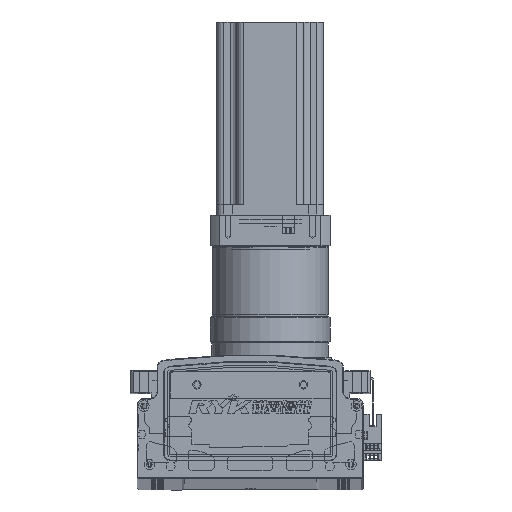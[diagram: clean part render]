
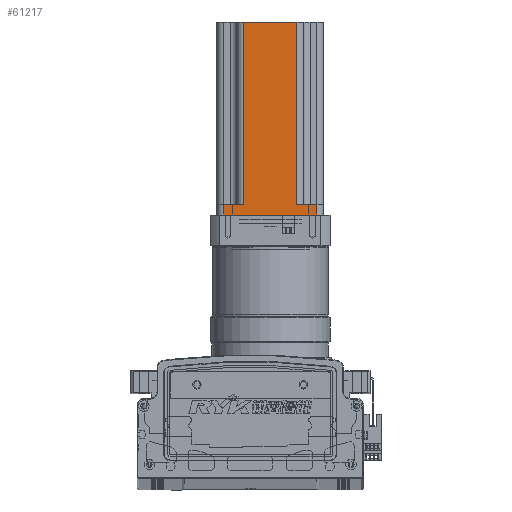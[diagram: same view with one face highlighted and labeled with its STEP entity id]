
A CAD part, top view. The second image highlights one B-rep face of the part: STEP entity #61217.
In plain terms, the highlighted planar face has unit normal (0, 0, 1) as drawn and (0, -1, 0) by its records, which use the part's own axes.
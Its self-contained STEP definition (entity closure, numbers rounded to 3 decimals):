
#7154 = EDGE_LOOP ( 'NONE', ( #81392, #79433, #81344, #81359, #81338, #81356, #81395, #81521 ) ) ;
#11948 = VERTEX_POINT ( 'NONE', #91412 ) ;
#11988 = VERTEX_POINT ( 'NONE', #91482 ) ;
#19806 = CARTESIAN_POINT ( 'NONE',  ( -67.587, -40.37, 8. ) ) ;
#19839 = CARTESIAN_POINT ( 'NONE',  ( -27.587, -40.37, 145. ) ) ;
#19842 = CARTESIAN_POINT ( 'NONE',  ( -12.587, -40.37, 8. ) ) ;
#19911 = CARTESIAN_POINT ( 'NONE',  ( -67.587, -40.37, 145. ) ) ;
#19941 = CARTESIAN_POINT ( 'NONE',  ( -82.587, -40.37, 8. ) ) ;
#19985 = CARTESIAN_POINT ( 'NONE',  ( -27.587, -40.37, 8. ) ) ;
#54371 = FACE_OUTER_BOUND ( 'NONE', #7154, .T. ) ;
#61217 = ADVANCED_FACE ( 'NONE', ( #54371 ), #128482, .F. ) ;
#74432 = VERTEX_POINT ( 'NONE', #19842 ) ;
#74434 = VERTEX_POINT ( 'NONE', #19839 ) ;
#74474 = VERTEX_POINT ( 'NONE', #19806 ) ;
#74554 = VERTEX_POINT ( 'NONE', #19911 ) ;
#74647 = VERTEX_POINT ( 'NONE', #19985 ) ;
#74710 = VERTEX_POINT ( 'NONE', #19941 ) ;
#79433 = ORIENTED_EDGE ( 'NONE', *, *, #107526, .T. ) ;
#81338 = ORIENTED_EDGE ( 'NONE', *, *, #107436, .F. ) ;
#81344 = ORIENTED_EDGE ( 'NONE', *, *, #107443, .T. ) ;
#81356 = ORIENTED_EDGE ( 'NONE', *, *, #107421, .T. ) ;
#81359 = ORIENTED_EDGE ( 'NONE', *, *, #107495, .T. ) ;
#81392 = ORIENTED_EDGE ( 'NONE', *, *, #107429, .F. ) ;
#81395 = ORIENTED_EDGE ( 'NONE', *, *, #107465, .F. ) ;
#81521 = ORIENTED_EDGE ( 'NONE', *, *, #107422, .T. ) ;
#91412 = CARTESIAN_POINT ( 'NONE',  ( -12.587, -40.37, 0. ) ) ;
#91482 = CARTESIAN_POINT ( 'NONE',  ( -82.587, -40.37, 0. ) ) ;
#100448 = CARTESIAN_POINT ( 'NONE',  ( -27.587, -40.37, 145. ) ) ;
#100450 = DIRECTION ( 'NONE',  ( 0., 0., 1. ) ) ;
#100467 = DIRECTION ( 'NONE',  ( 0., 0., -1. ) ) ;
#100469 = CARTESIAN_POINT ( 'NONE',  ( -67.587, -40.37, 145. ) ) ;
#100534 = CARTESIAN_POINT ( 'NONE',  ( -87.587, -40.37, 8. ) ) ;
#100601 = DIRECTION ( 'NONE',  ( 1., 0., 0. ) ) ;
#100632 = CARTESIAN_POINT ( 'NONE',  ( -87.587, -40.37, 0. ) ) ;
#100653 = DIRECTION ( 'NONE',  ( 1., 0., 0. ) ) ;
#100655 = CARTESIAN_POINT ( 'NONE',  ( -7.587, -40.37, 8. ) ) ;
#100695 = DIRECTION ( 'NONE',  ( 1., 0., 0. ) ) ;
#100731 = DIRECTION ( 'NONE',  ( 1., 0., 0. ) ) ;
#100768 = CARTESIAN_POINT ( 'NONE',  ( -87.587, -40.37, 145. ) ) ;
#100938 = CARTESIAN_POINT ( 'NONE',  ( -12.587, -40.37, 145. ) ) ;
#100974 = DIRECTION ( 'NONE',  ( 0., 0., 1. ) ) ;
#101143 = CARTESIAN_POINT ( 'NONE',  ( -82.587, -40.37, 145. ) ) ;
#101162 = DIRECTION ( 'NONE',  ( 0., 0., -1. ) ) ;
#105904 = LINE ( 'NONE', #100534, #105920 ) ;
#105920 = VECTOR ( 'NONE', #100601, 1000. ) ;
#105956 = LINE ( 'NONE', #100448, #105993 ) ;
#105962 = LINE ( 'NONE', #100469, #106003 ) ;
#105993 = VECTOR ( 'NONE', #100450, 1000. ) ;
#106003 = VECTOR ( 'NONE', #100467, 1000. ) ;
#106034 = VECTOR ( 'NONE', #100731, 1000. ) ;
#106101 = LINE ( 'NONE', #100768, #106034 ) ;
#106132 = LINE ( 'NONE', #100632, #106145 ) ;
#106145 = VECTOR ( 'NONE', #100695, 1000. ) ;
#106150 = VECTOR ( 'NONE', #100653, 1000. ) ;
#106156 = LINE ( 'NONE', #100655, #106150 ) ;
#106235 = VECTOR ( 'NONE', #100974, 1000. ) ;
#106255 = LINE ( 'NONE', #100938, #106235 ) ;
#106291 = VECTOR ( 'NONE', #101162, 1000. ) ;
#106295 = LINE ( 'NONE', #101143, #106291 ) ;
#107421 = EDGE_CURVE ( 'NONE', #74647, #74434, #105956, .T. ) ;
#107422 = EDGE_CURVE ( 'NONE', #74554, #74474, #105962, .T. ) ;
#107429 = EDGE_CURVE ( 'NONE', #74710, #74474, #105904, .T. ) ;
#107436 = EDGE_CURVE ( 'NONE', #74647, #74432, #106156, .T. ) ;
#107443 = EDGE_CURVE ( 'NONE', #11988, #11948, #106132, .T. ) ;
#107465 = EDGE_CURVE ( 'NONE', #74554, #74434, #106101, .T. ) ;
#107495 = EDGE_CURVE ( 'NONE', #11948, #74432, #106255, .T. ) ;
#107526 = EDGE_CURVE ( 'NONE', #74710, #11988, #106295, .T. ) ;
#121131 = AXIS2_PLACEMENT_3D ( 'NONE', #128603, #128589, #128513 ) ;
#128482 = PLANE ( 'NONE',  #121131 ) ;
#128513 = DIRECTION ( 'NONE',  ( -1., 0., 0. ) ) ;
#128589 = DIRECTION ( 'NONE',  ( 0., 1., 0. ) ) ;
#128603 = CARTESIAN_POINT ( 'NONE',  ( -87.587, -40.37, 145. ) ) ;
